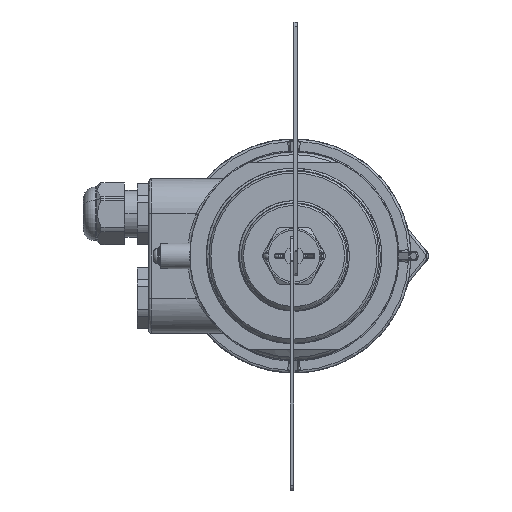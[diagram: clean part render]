
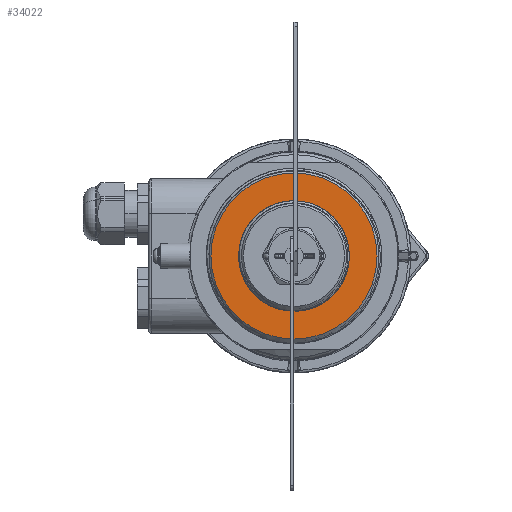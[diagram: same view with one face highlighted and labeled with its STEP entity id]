
A CAD part, front view. The second image highlights one B-rep face of the part: STEP entity #34022.
In plain terms, the highlighted planar face has unit normal (0, -1, 0).
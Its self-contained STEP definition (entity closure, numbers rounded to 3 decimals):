
#258 = DIRECTION ( 'NONE',  ( 0., 0., 1. ) ) ;
#1865 = ORIENTED_EDGE ( 'NONE', *, *, #32663, .T. ) ;
#2285 = CARTESIAN_POINT ( 'NONE',  ( 0., 94.5, -35.5 ) ) ;
#2997 = CIRCLE ( 'NONE', #31726, 23.6 ) ;
#3742 = ORIENTED_EDGE ( 'NONE', *, *, #14401, .T. ) ;
#3990 = CIRCLE ( 'NONE', #10554, 35.5 ) ;
#4910 = CARTESIAN_POINT ( 'NONE',  ( 0., 94.5, 35.5 ) ) ;
#4926 = VERTEX_POINT ( 'NONE', #36549 ) ;
#5261 = DIRECTION ( 'NONE',  ( 0., 0., 1. ) ) ;
#6890 = CIRCLE ( 'NONE', #35623, 35.5 ) ;
#7320 = DIRECTION ( 'NONE',  ( 0., 0., 1. ) ) ;
#8801 = ORIENTED_EDGE ( 'NONE', *, *, #9456, .T. ) ;
#9456 = EDGE_CURVE ( 'NONE', #25182, #26131, #33326, .T. ) ;
#10554 = AXIS2_PLACEMENT_3D ( 'NONE', #47331, #12118, #27806 ) ;
#11159 = AXIS2_PLACEMENT_3D ( 'NONE', #17282, #32964, #48644 ) ;
#12118 = DIRECTION ( 'NONE',  ( 0., -1., 0. ) ) ;
#13277 = EDGE_LOOP ( 'NONE', ( #49375, #3742 ) ) ;
#13426 = CARTESIAN_POINT ( 'NONE',  ( 37.5, 94.5, 0. ) ) ;
#14401 = EDGE_CURVE ( 'NONE', #23460, #26194, #3990, .T. ) ;
#16428 = EDGE_LOOP ( 'NONE', ( #49817, #1865, #8801 ) ) ;
#17273 = FACE_OUTER_BOUND ( 'NONE', #13277, .T. ) ;
#17282 = CARTESIAN_POINT ( 'NONE',  ( 0., 94.5, 0. ) ) ;
#19782 = CARTESIAN_POINT ( 'NONE',  ( 0., 94.5, 0. ) ) ;
#19867 = CIRCLE ( 'NONE', #26460, 23.6 ) ;
#23460 = VERTEX_POINT ( 'NONE', #2285 ) ;
#24202 = CARTESIAN_POINT ( 'NONE',  ( 5.495, 94.5, -22.951 ) ) ;
#24795 = CARTESIAN_POINT ( 'NONE',  ( 0., 94.5, 0. ) ) ;
#25182 = VERTEX_POINT ( 'NONE', #32558 ) ;
#26131 = VERTEX_POINT ( 'NONE', #24202 ) ;
#26194 = VERTEX_POINT ( 'NONE', #4910 ) ;
#26460 = AXIS2_PLACEMENT_3D ( 'NONE', #24795, #40482, #5261 ) ;
#26863 = CARTESIAN_POINT ( 'NONE',  ( 0., 94.5, 0. ) ) ;
#27806 = DIRECTION ( 'NONE',  ( 0., 0., 1. ) ) ;
#29112 = DIRECTION ( 'NONE',  ( 0., 1., 0. ) ) ;
#31726 = AXIS2_PLACEMENT_3D ( 'NONE', #19782, #35474, #258 ) ;
#32558 = CARTESIAN_POINT ( 'NONE',  ( -12.368, 94.5, -20.1 ) ) ;
#32663 = EDGE_CURVE ( 'NONE', #4926, #25182, #2997, .T. ) ;
#32956 = FACE_BOUND ( 'NONE', #16428, .T. ) ;
#32964 = DIRECTION ( 'NONE',  ( 0., 1., 0. ) ) ;
#33326 = CIRCLE ( 'NONE', #11159, 23.6 ) ;
#34022 = ADVANCED_FACE ( 'NONE', ( #17273, #32956 ), #48635, .F. ) ;
#35474 = DIRECTION ( 'NONE',  ( 0., 1., 0. ) ) ;
#35623 = AXIS2_PLACEMENT_3D ( 'NONE', #26863, #42542, #7320 ) ;
#36549 = CARTESIAN_POINT ( 'NONE',  ( 0., 94.5, -23.6 ) ) ;
#40482 = DIRECTION ( 'NONE',  ( 0., 1., 0. ) ) ;
#40816 = AXIS2_PLACEMENT_3D ( 'NONE', #13426, #29112, #44783 ) ;
#42281 = EDGE_CURVE ( 'NONE', #26131, #4926, #19867, .T. ) ;
#42542 = DIRECTION ( 'NONE',  ( 0., -1., 0. ) ) ;
#44783 = DIRECTION ( 'NONE',  ( 0., 0., 1. ) ) ;
#47331 = CARTESIAN_POINT ( 'NONE',  ( 0., 94.5, 0. ) ) ;
#48246 = EDGE_CURVE ( 'NONE', #26194, #23460, #6890, .T. ) ;
#48635 = PLANE ( 'NONE',  #40816 ) ;
#48644 = DIRECTION ( 'NONE',  ( 0., 0., 1. ) ) ;
#49375 = ORIENTED_EDGE ( 'NONE', *, *, #48246, .T. ) ;
#49817 = ORIENTED_EDGE ( 'NONE', *, *, #42281, .T. ) ;
